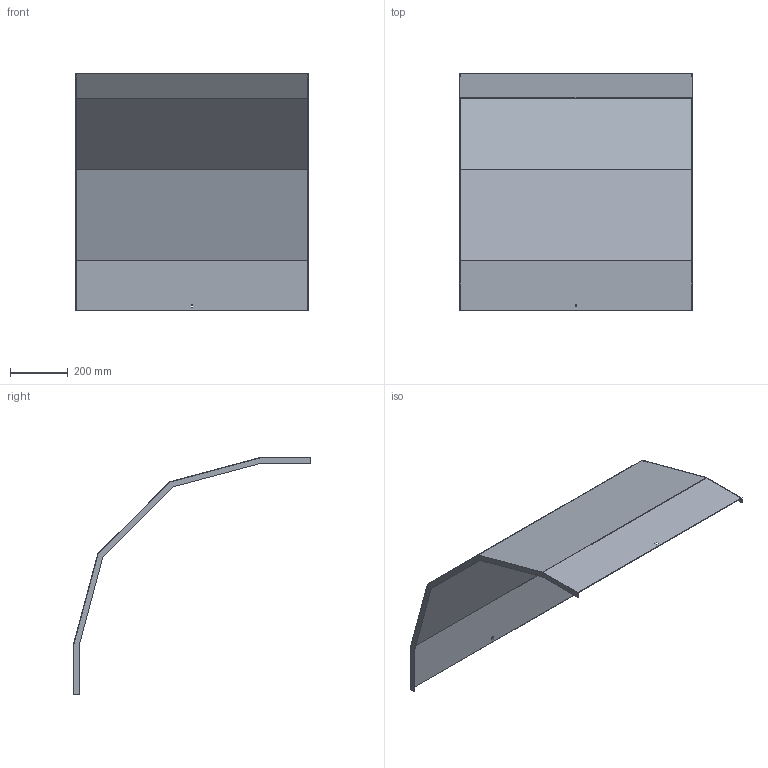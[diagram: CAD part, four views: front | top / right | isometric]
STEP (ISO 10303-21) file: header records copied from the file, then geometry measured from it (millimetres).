
FILE_DESCRIPTION (( 'STEP AP214' ), '1' );
FILE_NAME ('33N5F800.step', '2025-02-21T14:25:58', ( '' ), ( '' ), 'SwSTEP 2.0', 'SolidWorks 2023', '' );
FILE_SCHEMA (( 'AUTOMOTIVE_DESIGN' ));
Length unit declared in the file: millimetre
Products named in the file (1): 33N5F800
Bounding box: 803 x 820.4 x 820.4 mm (x, y, z)
Volume: 1697126.7 mm3; surface area: 2269403.3 mm2
Topology: 1 solids, 1 shells, 34 faces, 96 edges, 64 vertices
Faces by surface type: plane 34
Entity records: 1111 total; most frequent: CARTESIAN_POINT 195, ORIENTED_EDGE 192, DIRECTION 166, VECTOR 96, LINE 96, EDGE_CURVE 96, VERTEX_POINT 64, EDGE_LOOP 38
